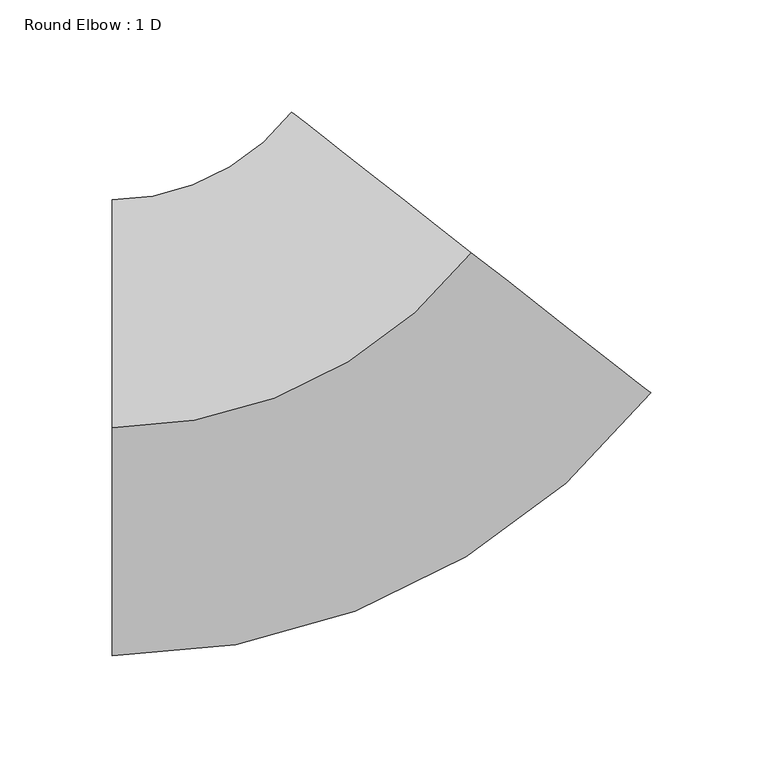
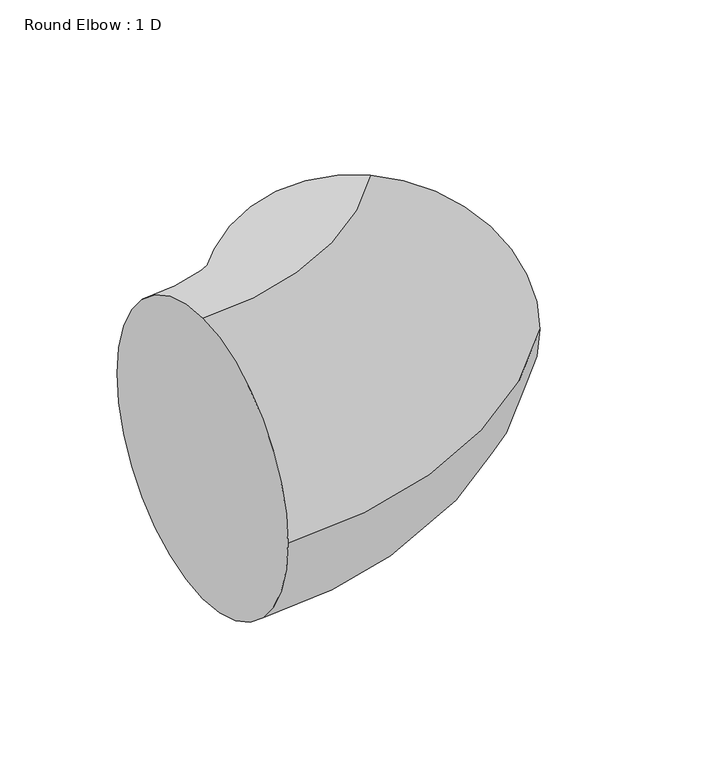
"""IFC4 building model written with IfcOpenShell, lengths in millimetres: duct fitting geometry, Round Elbow : 1 D."""

from ifc_helpers import new_model, si_unit, point, frame, origin, place, context, project, spatial, circle_curve, ellipse_curve, trimmed, source, transform, mapped, element, save
from ifc_brep_helpers import plane_surface, revolved_surface, advanced_brep


def round_elbow_1_d_fe38274b(model_context):
    return source(origin(), model_context, "Body", "AdvancedBrep", [
        advanced_brep(
        [(-99.107262, 0.0, 101.6), (-99.107262, 101.6, 0.0), (-99.107262, 0.0, -101.6), (-99.107262, -101.6, 0.0), (61.0165231, 78.0975882, 101.6), (141.0784157, 15.5463823, 0.0), (61.0165231, 78.0975882, -101.6), (-19.0453694, 140.6487941, 0.0)],
        [
            (0, 1, circle_curve(frame((-99.107262, 0.0, 0.0), z_axis=(-1.0, 0.0, 0.0), x_axis=(0.0, 1.0, 0.0)), 101.6)),
            (1, 2, circle_curve(frame((-99.107262, 0.0, 0.0), z_axis=(-1.0, 0.0, 0.0), x_axis=(0.0, 1.0, 0.0)), 101.6)),
            (2, 3, circle_curve(frame((-99.107262, 0.0, 0.0), z_axis=(-1.0, 0.0, 0.0), x_axis=(0.0, 1.0, 0.0)), 101.6)),
            (3, 0, circle_curve(frame((-99.107262, 0.0, 0.0), z_axis=(-1.0, 0.0, 0.0), x_axis=(0.0, 1.0, 0.0)), 101.6)),
            (4, 5, circle_curve(frame((61.0165231, 78.0975882, 0.0), z_axis=(0.6156614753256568, 0.7880107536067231, 0.0), x_axis=(-0.7880107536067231, 0.6156614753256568, 0.0)), 101.6)),
            (5, 6, circle_curve(frame((61.0165231, 78.0975882, 0.0), z_axis=(0.6156614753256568, 0.7880107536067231, 0.0), x_axis=(-0.7880107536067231, 0.6156614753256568, 0.0)), 101.6)),
            (6, 7, circle_curve(frame((61.0165231, 78.0975882, 0.0), z_axis=(0.6156614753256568, 0.7880107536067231, 0.0), x_axis=(-0.7880107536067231, 0.6156614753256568, 0.0)), 101.6)),
            (7, 4, circle_curve(frame((61.0165231, 78.0975882, 0.0), z_axis=(0.6156614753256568, 0.7880107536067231, 0.0), x_axis=(-0.7880107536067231, 0.6156614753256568, 0.0)), 101.6)),
            (7, 1, circle_curve(frame((-99.107262, 203.2, 0.0), z_axis=(0.0, 0.0, -1.0), x_axis=(0.0, -1.0, 0.0)), 101.6)),
            (0, 4, circle_curve(frame((-99.107262, 203.2, 101.6), z_axis=(0.0, 0.0, 1.0), x_axis=(0.0, -1.0, 0.0)), 203.2)),
            (6, 2, circle_curve(frame((-99.107262, 203.2, -101.6), z_axis=(0.0, 0.0, -1.0), x_axis=(0.0, -1.0, 0.0)), 203.2)),
            (5, 3, circle_curve(frame((-99.107262, 203.2, 0.0), z_axis=(0.0, 0.0, -1.0), x_axis=(0.0, -1.0, 0.0)), 304.8)),
        ],
        [
            plane_surface(frame((-99.107262, 0.0, 0.0), z_axis=(-1.0, 0.0, 0.0), x_axis=(0.0, 0.0, 1.0))),
            plane_surface(frame((61.0165231, 78.0975882, 0.0), z_axis=(0.6156614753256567, 0.7880107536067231, 0.0), x_axis=(0.0, 0.0, 1.0))),
            revolved_surface(trimmed(ellipse_curve(frame((-99.107262, 0.0, 0.0), z_axis=(-1.0, 0.0, 0.0), x_axis=(0.0, 1.0, 0.0)), 101.6, 101.6), [point((-99.107262, 0.0, 101.6))], [point((-99.107262, 101.6, 0.0))], True, "CARTESIAN"), (-99.107262, 203.2, 0.0), (0.0, 0.0, 1.0)),
            revolved_surface(trimmed(ellipse_curve(frame((-99.107262, 0.0, 0.0), z_axis=(-1.0, 0.0, 0.0), x_axis=(0.0, 1.0, 0.0)), 101.6, 101.6), [point((-99.107262, 101.6, 0.0))], [point((-99.107262, 0.0, -101.6))], True, "CARTESIAN"), (-99.107262, 203.2, 0.0), (0.0, 0.0, 1.0)),
            revolved_surface(trimmed(ellipse_curve(frame((-99.107262, 0.0, 0.0), z_axis=(-1.0, 0.0, 0.0), x_axis=(0.0, 1.0, 0.0)), 101.6, 101.6), [point((-99.107262, 0.0, -101.6))], [point((-99.107262, -101.6, 0.0))], True, "CARTESIAN"), (-99.107262, 203.2, 0.0), (0.0, 0.0, 1.0)),
            revolved_surface(trimmed(ellipse_curve(frame((-99.107262, 0.0, 0.0), z_axis=(-1.0, 0.0, 0.0), x_axis=(0.0, 1.0, 0.0)), 101.6, 101.6), [point((-99.107262, -101.6, 0.0))], [point((-99.107262, 0.0, 101.6))], True, "CARTESIAN"), (-99.107262, 203.2, 0.0), (0.0, 0.0, 1.0)),
        ],
        [
            (0, [[1, 2, 3, 4]]),
            (1, [[5, 6, 7, 8]]),
            (2, [[9, -1, 10, -8]]),
            (3, [[11, -2, -9, -7]]),
            (4, [[12, -3, -11, -6]]),
            (5, [[-10, -4, -12, -5]]),
        ],
    ),
    ])


if __name__ == "__main__":
    model = new_model("IFC4")
    model_context = context("Model", 3, world=origin())
    ifc_project = project(units=[si_unit("LENGTHUNIT", "METRE", prefix="MILLI")], contexts=[model_context])
    site = spatial("IfcSite", under=ifc_project)
    building = spatial("IfcBuilding", under=site)
    placement = place(None, origin())
    round_elbow_1_d_shape = round_elbow_1_d_fe38274b(model_context)
    element("IfcDuctFitting", 1, ObjectType="Round Elbow : 1 D", at=placement, inside=building, context=model_context, shape_type="MappedRepresentation", body=[
        mapped(round_elbow_1_d_shape, transform((0.0, 0.0, 0.0), x_axis=(1.0, 0.0, 0.0), y_axis=(0.0, 1.0, 0.0), z_axis=(0.0, 0.0, 1.0))),
    ])
    save(model, "model.ifc")
